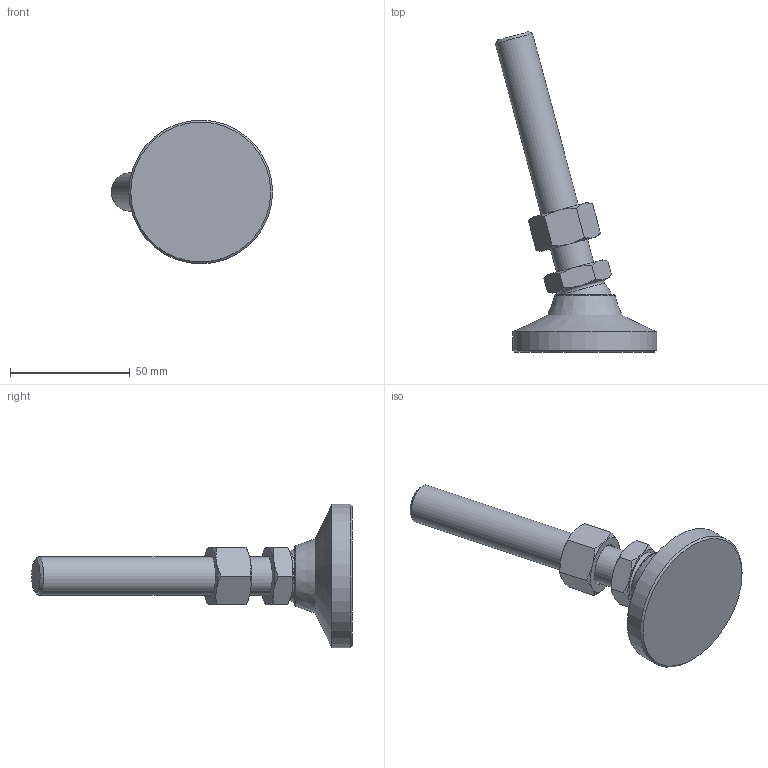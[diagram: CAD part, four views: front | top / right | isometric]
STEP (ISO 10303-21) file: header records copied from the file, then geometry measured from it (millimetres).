
FILE_DESCRIPTION( ( 'STEP AP214' ), ' ' );
FILE_NAME( 'O:/ganter_2015/teil_2/2_5/gn343_2/gn343_2_os/Levelling foot with threaded stud GN 343.2-60-M16-100-OS-(15).stp', '2015-10-26T09:08:36', ( '' ), ( '' ), ' ', 'PARTsolutions', ' ' );
FILE_SCHEMA( ( 'AUTOMOTIVE_DESIGN { 1 0 10303 214 1 1 1 1 }' ) );
Length unit declared in the file: millimetre
Products named in the file (4): Levelling foot with threaded stud GN 343.2-60-M16-100-OS-(15); _Levelling foot with threaded stud GN 343.2-60-M16-100-OS-(15)_foot; _Levelling foot with threaded stud GN 343.2-60-M16-100-OS-(15)_screw; _Stainless Steel-Levelling feet GN 343.2-60-M16-100-OS-(15)_nut
Assembly tree (3 placements, depth 2):
  Levelling foot with threaded stud GN 343.2-60-M16-100-OS-(15)
    _Levelling foot with threaded stud GN 343.2-60-M16-100-OS-(15)_foot
    _Levelling foot with threaded stud GN 343.2-60-M16-100-OS-(15)_screw
    _Stainless Steel-Levelling feet GN 343.2-60-M16-100-OS-(15)_nut
Bounding box: 67.3 x 133.83 x 60 mm (x, y, z)
Volume: 71448.5 mm3; surface area: 18767.4 mm2
Topology: 3 solids, 3 shells, 56 faces, 117 edges, 68 vertices
Faces by surface type: cone 30, plane 19, cylinder 3, torus 2, sphere 2
Full cylindrical faces by diameter (mm): 13.835 x1, 16 x1, 60 x1
Entity records: 2082 total; most frequent: CARTESIAN_POINT 514, DIRECTION 212, ORIENTED_EDGE 200, AXIS2_PLACEMENT_3D 100, EDGE_CURVE 100, EDGE_LOOP 72, VERTEX_POINT 66, FACE_OUTER_BOUND 61
